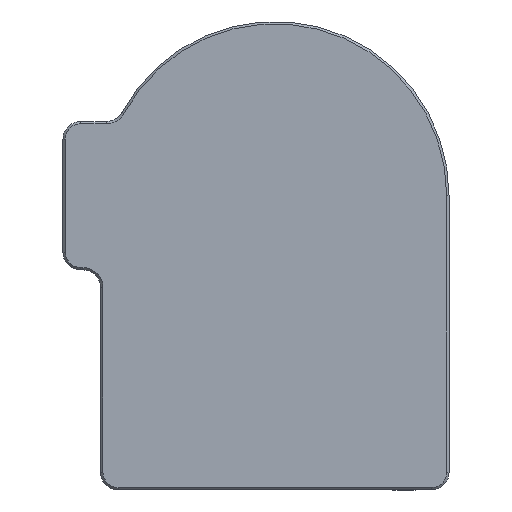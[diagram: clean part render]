
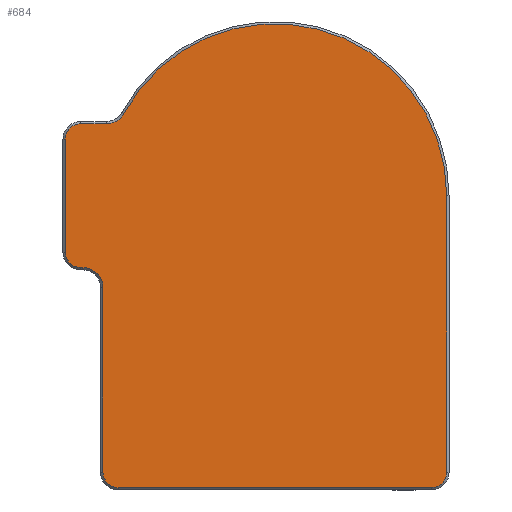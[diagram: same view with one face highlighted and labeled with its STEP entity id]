
A CAD part, left-side view. The second image highlights one B-rep face of the part: STEP entity #684.
In plain terms, the highlighted planar face has unit normal (-1, 0, 0).
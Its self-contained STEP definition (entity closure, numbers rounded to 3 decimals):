
#190=PLANE('',#3621);
#313=CIRCLE('',#3614,14.6);
#314=CIRCLE('',#3615,1.7);
#315=CIRCLE('',#3616,1.3);
#316=CIRCLE('',#3617,1.3);
#317=CIRCLE('',#3618,1.7);
#318=CIRCLE('',#3619,1.3);
#319=CIRCLE('',#3620,1.3);
#684=ADVANCED_FACE('',(#1381),#190,.T.);
#965=LINE('',#5934,#1228);
#966=LINE('',#5941,#1229);
#967=LINE('',#5945,#1230);
#968=LINE('',#5949,#1231);
#969=LINE('',#5953,#1232);
#970=LINE('',#5957,#1233);
#1228=VECTOR('',#4293,1.);
#1229=VECTOR('',#4298,1.);
#1230=VECTOR('',#4301,1.);
#1231=VECTOR('',#4304,1.);
#1232=VECTOR('',#4307,1.);
#1233=VECTOR('',#4310,1.);
#1381=FACE_OUTER_BOUND('',#1593,.T.);
#1593=EDGE_LOOP('',(#2191,#2192,#2193,#2194,#2195,#2196,#2197,#2198,#2199,
#2200,#2201,#2202,#2203));
#2191=ORIENTED_EDGE('',*,*,#3235,.T.);
#2192=ORIENTED_EDGE('',*,*,#3236,.T.);
#2193=ORIENTED_EDGE('',*,*,#3237,.T.);
#2194=ORIENTED_EDGE('',*,*,#3238,.T.);
#2195=ORIENTED_EDGE('',*,*,#3239,.T.);
#2196=ORIENTED_EDGE('',*,*,#3240,.T.);
#2197=ORIENTED_EDGE('',*,*,#3241,.T.);
#2198=ORIENTED_EDGE('',*,*,#3242,.T.);
#2199=ORIENTED_EDGE('',*,*,#3243,.T.);
#2200=ORIENTED_EDGE('',*,*,#3244,.T.);
#2201=ORIENTED_EDGE('',*,*,#3245,.T.);
#2202=ORIENTED_EDGE('',*,*,#3246,.T.);
#2203=ORIENTED_EDGE('',*,*,#3247,.T.);
#2843=VERTEX_POINT('',#5935);
#2844=VERTEX_POINT('',#5936);
#2845=VERTEX_POINT('',#5938);
#2846=VERTEX_POINT('',#5940);
#2847=VERTEX_POINT('',#5942);
#2848=VERTEX_POINT('',#5944);
#2849=VERTEX_POINT('',#5946);
#2850=VERTEX_POINT('',#5948);
#2851=VERTEX_POINT('',#5950);
#2852=VERTEX_POINT('',#5952);
#2853=VERTEX_POINT('',#5954);
#2854=VERTEX_POINT('',#5956);
#2855=VERTEX_POINT('',#5958);
#3235=EDGE_CURVE('',#2843,#2844,#965,.T.);
#3236=EDGE_CURVE('',#2844,#2845,#313,.T.);
#3237=EDGE_CURVE('',#2845,#2846,#314,.T.);
#3238=EDGE_CURVE('',#2846,#2847,#966,.T.);
#3239=EDGE_CURVE('',#2847,#2848,#315,.T.);
#3240=EDGE_CURVE('',#2848,#2849,#967,.T.);
#3241=EDGE_CURVE('',#2849,#2850,#316,.T.);
#3242=EDGE_CURVE('',#2850,#2851,#968,.T.);
#3243=EDGE_CURVE('',#2851,#2852,#317,.T.);
#3244=EDGE_CURVE('',#2852,#2853,#969,.T.);
#3245=EDGE_CURVE('',#2853,#2854,#318,.T.);
#3246=EDGE_CURVE('',#2854,#2855,#970,.T.);
#3247=EDGE_CURVE('',#2855,#2843,#319,.T.);
#3614=AXIS2_PLACEMENT_3D('',#5937,#4294,#4295);
#3615=AXIS2_PLACEMENT_3D('',#5939,#4296,#4297);
#3616=AXIS2_PLACEMENT_3D('',#5943,#4299,#4300);
#3617=AXIS2_PLACEMENT_3D('',#5947,#4302,#4303);
#3618=AXIS2_PLACEMENT_3D('',#5951,#4305,#4306);
#3619=AXIS2_PLACEMENT_3D('',#5955,#4308,#4309);
#3620=AXIS2_PLACEMENT_3D('',#5959,#4311,#4312);
#3621=AXIS2_PLACEMENT_3D('',#5960,#4313,#4314);
#4293=DIRECTION('',(0.,0.,1.));
#4294=DIRECTION('',(-1.,0.,0.));
#4295=DIRECTION('',(0.,0.,1.));
#4296=DIRECTION('',(1.,0.,0.));
#4297=DIRECTION('',(0.,0.,1.));
#4298=DIRECTION('',(0.,1.,0.));
#4299=DIRECTION('',(-1.,0.,0.));
#4300=DIRECTION('',(0.,0.,1.));
#4301=DIRECTION('',(0.,0.,-1.));
#4302=DIRECTION('',(-1.,0.,0.));
#4303=DIRECTION('',(0.,0.,1.));
#4304=DIRECTION('',(0.,-1.,0.));
#4305=DIRECTION('',(1.,0.,0.));
#4306=DIRECTION('',(0.,0.,1.));
#4307=DIRECTION('',(0.,0.,-1.));
#4308=DIRECTION('',(-1.,0.,0.));
#4309=DIRECTION('',(0.,0.,1.));
#4310=DIRECTION('',(0.,-1.,0.));
#4311=DIRECTION('',(-1.,0.,0.));
#4312=DIRECTION('',(0.,0.,1.));
#4313=DIRECTION('',(-1.,0.,0.));
#4314=DIRECTION('',(0.,0.,1.));
#5934=CARTESIAN_POINT('',(-3.4,-14.6,0.));
#5935=CARTESIAN_POINT('',(-3.4,-14.6,-23.5));
#5936=CARTESIAN_POINT('',(-3.4,-14.6,0.));
#5937=CARTESIAN_POINT('',(-3.4,0.,0.));
#5938=CARTESIAN_POINT('',(-3.4,12.82,6.987));
#5939=CARTESIAN_POINT('',(-3.4,14.313,7.8));
#5940=CARTESIAN_POINT('',(-3.4,14.313,6.1));
#5941=CARTESIAN_POINT('',(-3.4,16.5,6.1));
#5942=CARTESIAN_POINT('',(-3.4,16.5,6.1));
#5943=CARTESIAN_POINT('',(-3.4,16.5,4.8));
#5944=CARTESIAN_POINT('',(-3.4,17.8,4.8));
#5945=CARTESIAN_POINT('',(-3.4,17.8,-4.8));
#5946=CARTESIAN_POINT('',(-3.4,17.8,-4.8));
#5947=CARTESIAN_POINT('',(-3.4,16.5,-4.8));
#5948=CARTESIAN_POINT('',(-3.4,16.5,-6.1));
#5949=CARTESIAN_POINT('',(-3.4,16.3,-6.1));
#5950=CARTESIAN_POINT('',(-3.4,16.3,-6.1));
#5951=CARTESIAN_POINT('',(-3.4,16.3,-7.8));
#5952=CARTESIAN_POINT('',(-3.4,14.6,-7.8));
#5953=CARTESIAN_POINT('',(-3.4,14.6,-23.5));
#5954=CARTESIAN_POINT('',(-3.4,14.6,-23.5));
#5955=CARTESIAN_POINT('',(-3.4,13.3,-23.5));
#5956=CARTESIAN_POINT('',(-3.4,13.3,-24.8));
#5957=CARTESIAN_POINT('',(-3.4,-13.3,-24.8));
#5958=CARTESIAN_POINT('',(-3.4,-13.3,-24.8));
#5959=CARTESIAN_POINT('',(-3.4,-13.3,-23.5));
#5960=CARTESIAN_POINT('',(-3.4,0.,0.));
